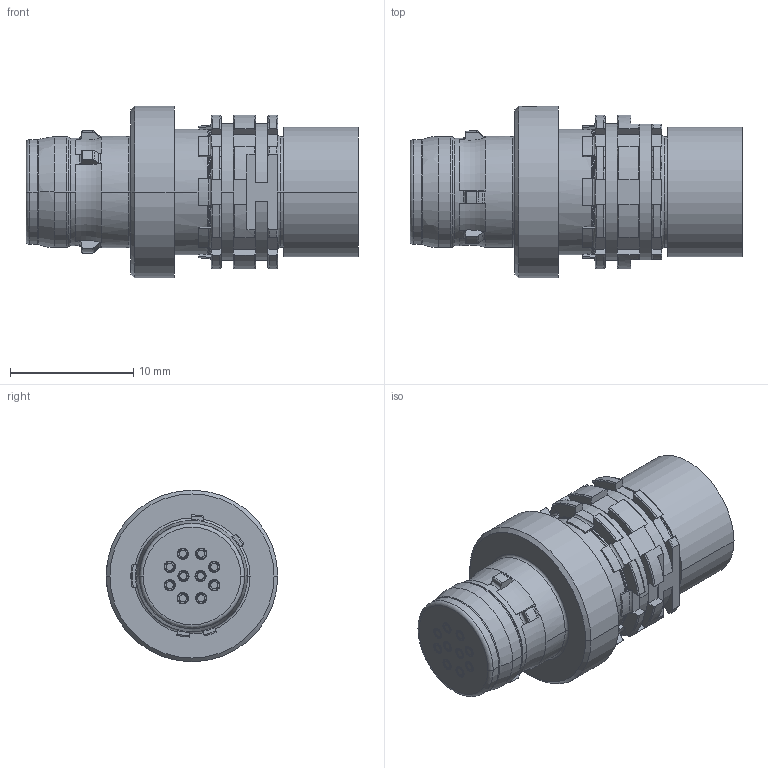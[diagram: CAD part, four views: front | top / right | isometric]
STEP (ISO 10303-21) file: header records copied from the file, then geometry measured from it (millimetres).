
FILE_DESCRIPTION((''),'2;1');
FILE_NAME('00050745-A','2020-10-27T07:55:29',('EUnterhaslberger'),(''),'CREO PARAMETRIC BY PTC INC, 2018300','CREO PARAMETRIC BY PTC INC, 2018300','');
FILE_SCHEMA(('AP242_MANAGED_MODEL_BASED_3D_ENGINEERING_MIM_LF { 1 0 10303 442 1 1 4 }'));
Length unit declared in the file: millimetre
Products named in the file (1): 00050745-A
Bounding box: 26.9 x 13.9 x 13.9 mm (x, y, z)
Volume: 1874.6 mm3; surface area: 2691.8 mm2
Topology: 2 solids, 5 shells, 759 faces, 2099 edges, 1371 vertices
Faces by surface type: plane 269, cylinder 224, torus 151, cone 113, bspline 2
Entity records: 31089 total; most frequent: CARTESIAN_POINT 6191, DIRECTION 4225, ORIENTED_EDGE 4158, EDGE_CURVE 2079, AXIS2_PLACEMENT_3D 1712, VERTEX_POINT 1371, CIRCLE 955, EDGE_LOOP 828
